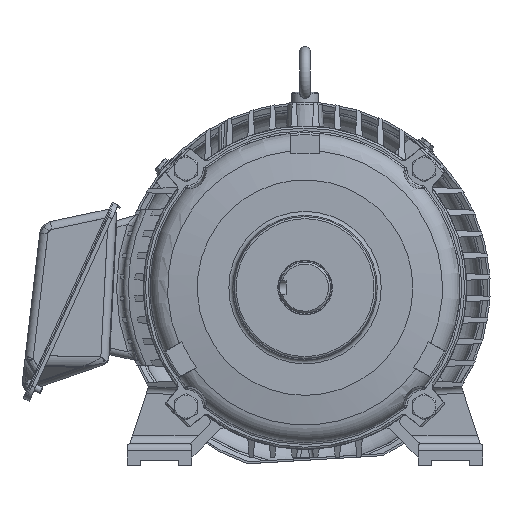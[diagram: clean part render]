
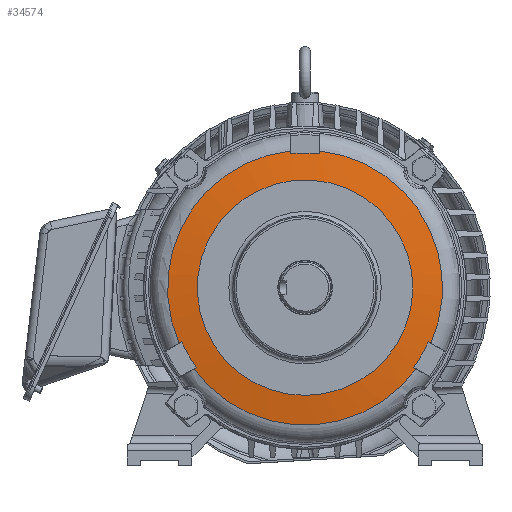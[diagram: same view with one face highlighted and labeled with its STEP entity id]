
A CAD part, front view. The second image highlights one B-rep face of the part: STEP entity #34574.
In plain terms, the highlighted conical face has half-angle 81.87 degrees and reference radius 80 mm.
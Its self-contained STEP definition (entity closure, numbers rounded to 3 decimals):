
#1653=B_SPLINE_CURVE_WITH_KNOTS('',3,(#57798,#57799,#57800,#57801),
 .UNSPECIFIED.,.F.,.F.,(4,4),(0.,1.),.PIECEWISE_BEZIER_KNOTS.);
#1654=B_SPLINE_CURVE_WITH_KNOTS('',3,(#57806,#57807,#57808,#57809),
 .UNSPECIFIED.,.F.,.F.,(4,4),(0.,1.),.PIECEWISE_BEZIER_KNOTS.);
#1655=B_SPLINE_CURVE_WITH_KNOTS('',3,(#57813,#57814,#57815,#57816),
 .UNSPECIFIED.,.F.,.F.,(4,4),(0.,1.),.PIECEWISE_BEZIER_KNOTS.);
#1656=B_SPLINE_CURVE_WITH_KNOTS('',3,(#57820,#57821,#57822,#57823),
 .UNSPECIFIED.,.F.,.F.,(4,4),(0.,1.),.PIECEWISE_BEZIER_KNOTS.);
#1657=B_SPLINE_CURVE_WITH_KNOTS('',3,(#57827,#57828,#57829,#57830),
 .UNSPECIFIED.,.F.,.F.,(4,4),(0.,1.),.PIECEWISE_BEZIER_KNOTS.);
#1658=B_SPLINE_CURVE_WITH_KNOTS('',3,(#57834,#57835,#57836,#57837),
 .UNSPECIFIED.,.F.,.F.,(4,4),(0.,1.),.PIECEWISE_BEZIER_KNOTS.);
#2692=CONICAL_SURFACE('',#37045,80.,1.429);
#8610=ORIENTED_EDGE('',*,*,#16243,.F.);
#8611=ORIENTED_EDGE('',*,*,#16244,.T.);
#8612=ORIENTED_EDGE('',*,*,#16245,.F.);
#8613=ORIENTED_EDGE('',*,*,#16246,.F.);
#8614=ORIENTED_EDGE('',*,*,#16247,.F.);
#8615=ORIENTED_EDGE('',*,*,#16248,.T.);
#8616=ORIENTED_EDGE('',*,*,#16249,.F.);
#8617=ORIENTED_EDGE('',*,*,#16250,.F.);
#8618=ORIENTED_EDGE('',*,*,#16251,.F.);
#8619=ORIENTED_EDGE('',*,*,#16252,.T.);
#8620=ORIENTED_EDGE('',*,*,#16253,.F.);
#8621=ORIENTED_EDGE('',*,*,#16254,.F.);
#8622=ORIENTED_EDGE('',*,*,#16255,.F.);
#16243=EDGE_CURVE('',#20321,#20322,#1653,.T.);
#16244=EDGE_CURVE('',#20321,#20323,#22740,.T.);
#16245=EDGE_CURVE('',#20324,#20323,#1654,.T.);
#16246=EDGE_CURVE('',#20325,#20324,#22741,.T.);
#16247=EDGE_CURVE('',#20326,#20325,#1655,.T.);
#16248=EDGE_CURVE('',#20326,#20327,#22742,.T.);
#16249=EDGE_CURVE('',#20328,#20327,#1656,.T.);
#16250=EDGE_CURVE('',#20329,#20328,#22743,.T.);
#16251=EDGE_CURVE('',#20330,#20329,#1657,.T.);
#16252=EDGE_CURVE('',#20330,#20331,#22744,.T.);
#16253=EDGE_CURVE('',#20332,#20331,#1658,.T.);
#16254=EDGE_CURVE('',#20322,#20332,#22745,.T.);
#16255=EDGE_CURVE('',#20333,#20333,#22746,.T.);
#20321=VERTEX_POINT('',#57802);
#20322=VERTEX_POINT('',#57803);
#20323=VERTEX_POINT('',#57805);
#20324=VERTEX_POINT('',#57810);
#20325=VERTEX_POINT('',#57812);
#20326=VERTEX_POINT('',#57817);
#20327=VERTEX_POINT('',#57819);
#20328=VERTEX_POINT('',#57824);
#20329=VERTEX_POINT('',#57826);
#20330=VERTEX_POINT('',#57831);
#20331=VERTEX_POINT('',#57833);
#20332=VERTEX_POINT('',#57838);
#20333=VERTEX_POINT('',#57841);
#22740=CIRCLE('',#37046,102.121);
#22741=CIRCLE('',#37047,100.);
#22742=CIRCLE('',#37048,102.121);
#22743=CIRCLE('',#37049,100.);
#22744=CIRCLE('',#37050,102.121);
#22745=CIRCLE('',#37051,100.);
#22746=CIRCLE('',#37052,80.);
#24654=EDGE_LOOP('',(#8610,#8611,#8612,#8613,#8614,#8615,#8616,#8617,#8618,
#8619,#8620,#8621));
#24655=EDGE_LOOP('',(#8622));
#26853=FACE_BOUND('',#24654,.T.);
#26854=FACE_BOUND('',#24655,.T.);
#34574=ADVANCED_FACE('',(#26853,#26854),#2692,.T.);
#37045=AXIS2_PLACEMENT_3D('',#57797,#42232,#42233);
#37046=AXIS2_PLACEMENT_3D('',#57804,#42234,#42235);
#37047=AXIS2_PLACEMENT_3D('',#57811,#42236,#42237);
#37048=AXIS2_PLACEMENT_3D('',#57818,#42238,#42239);
#37049=AXIS2_PLACEMENT_3D('',#57825,#42240,#42241);
#37050=AXIS2_PLACEMENT_3D('',#57832,#42242,#42243);
#37051=AXIS2_PLACEMENT_3D('',#57839,#42244,#42245);
#37052=AXIS2_PLACEMENT_3D('',#57840,#42246,#42247);
#42232=DIRECTION('',(0.,1.,0.));
#42233=DIRECTION('',(0.,0.,1.));
#42234=DIRECTION('',(0.,-1.,0.));
#42235=DIRECTION('',(0.,0.,-1.));
#42236=DIRECTION('',(0.,1.,0.));
#42237=DIRECTION('',(-0.5,0.,-0.866));
#42238=DIRECTION('',(0.,-1.,0.));
#42239=DIRECTION('',(0.,0.,-1.));
#42240=DIRECTION('',(0.,1.,0.));
#42241=DIRECTION('',(1.,0.,0.));
#42242=DIRECTION('',(0.,-1.,0.));
#42243=DIRECTION('',(0.,0.,-1.));
#42244=DIRECTION('',(0.,1.,0.));
#42245=DIRECTION('',(-0.5,0.,0.866));
#42246=DIRECTION('',(0.,-1.,0.));
#42247=DIRECTION('',(0.,0.,-1.));
#57797=CARTESIAN_POINT('',(0.,10.,0.));
#57798=CARTESIAN_POINT('',(-82.425,13.16,-60.29));
#57799=CARTESIAN_POINT('',(-81.809,13.059,-59.934));
#57800=CARTESIAN_POINT('',(-81.193,12.958,-59.579));
#57801=CARTESIAN_POINT('',(-80.577,12.857,-59.223));
#57802=CARTESIAN_POINT('',(-82.425,13.16,-60.29));
#57803=CARTESIAN_POINT('',(-80.577,12.857,-59.223));
#57804=CARTESIAN_POINT('',(0.,13.16,0.));
#57805=CARTESIAN_POINT('',(82.425,13.16,-60.29));
#57806=CARTESIAN_POINT('',(80.577,12.857,-59.223));
#57807=CARTESIAN_POINT('',(81.193,12.958,-59.579));
#57808=CARTESIAN_POINT('',(81.809,13.059,-59.934));
#57809=CARTESIAN_POINT('',(82.425,13.16,-60.29));
#57810=CARTESIAN_POINT('',(80.577,12.857,-59.223));
#57811=CARTESIAN_POINT('',(0.,12.857,0.));
#57812=CARTESIAN_POINT('',(91.577,12.857,-40.17));
#57813=CARTESIAN_POINT('',(93.425,13.16,-41.237));
#57814=CARTESIAN_POINT('',(92.809,13.059,-40.882));
#57815=CARTESIAN_POINT('',(92.193,12.958,-40.526));
#57816=CARTESIAN_POINT('',(91.577,12.857,-40.17));
#57817=CARTESIAN_POINT('',(93.425,13.16,-41.237));
#57818=CARTESIAN_POINT('',(0.,13.16,0.));
#57819=CARTESIAN_POINT('',(11.,13.16,101.527));
#57820=CARTESIAN_POINT('',(11.,12.857,99.393));
#57821=CARTESIAN_POINT('',(11.,12.958,100.104));
#57822=CARTESIAN_POINT('',(11.,13.059,100.816));
#57823=CARTESIAN_POINT('',(11.,13.16,101.527));
#57824=CARTESIAN_POINT('',(11.,12.857,99.393));
#57825=CARTESIAN_POINT('',(0.,12.857,0.));
#57826=CARTESIAN_POINT('',(-11.,12.857,99.393));
#57827=CARTESIAN_POINT('',(-11.,13.16,101.527));
#57828=CARTESIAN_POINT('',(-11.,13.059,100.816));
#57829=CARTESIAN_POINT('',(-11.,12.958,100.104));
#57830=CARTESIAN_POINT('',(-11.,12.857,99.393));
#57831=CARTESIAN_POINT('',(-11.,13.16,101.527));
#57832=CARTESIAN_POINT('',(0.,13.16,0.));
#57833=CARTESIAN_POINT('',(-93.425,13.16,-41.237));
#57834=CARTESIAN_POINT('',(-91.577,12.857,-40.17));
#57835=CARTESIAN_POINT('',(-92.193,12.958,-40.526));
#57836=CARTESIAN_POINT('',(-92.809,13.059,-40.882));
#57837=CARTESIAN_POINT('',(-93.425,13.16,-41.237));
#57838=CARTESIAN_POINT('',(-91.577,12.857,-40.17));
#57839=CARTESIAN_POINT('',(0.,12.857,0.));
#57840=CARTESIAN_POINT('',(0.,10.,0.));
#57841=CARTESIAN_POINT('',(0.,10.,-80.));
